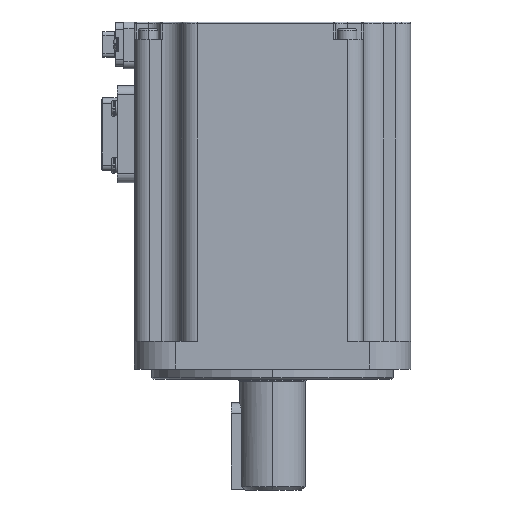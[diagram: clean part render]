
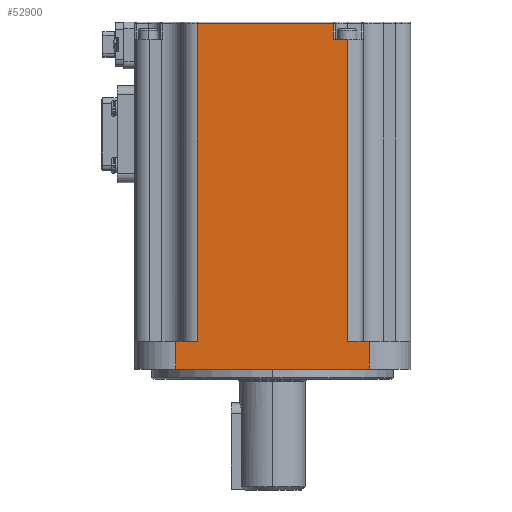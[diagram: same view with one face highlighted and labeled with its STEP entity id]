
A CAD part, left-side view. The second image highlights one B-rep face of the part: STEP entity #52900.
In plain terms, the highlighted planar face has unit normal (-1, 0, 0).
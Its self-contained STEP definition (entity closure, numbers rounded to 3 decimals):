
#631 = EDGE_CURVE ( 'NONE', #10519, #52697, #22753, .T. ) ;
#746 = DIRECTION ( 'NONE',  ( 0., 0., -1. ) ) ;
#1459 = VECTOR ( 'NONE', #34419, 1000. ) ;
#1499 = EDGE_CURVE ( 'NONE', #37249, #26542, #14126, .T. ) ;
#2490 = EDGE_CURVE ( 'NONE', #52697, #4895, #21730, .T. ) ;
#3678 = DIRECTION ( 'NONE',  ( 0., 0., -1. ) ) ;
#4394 = DIRECTION ( 'NONE',  ( 0., 0., 1. ) ) ;
#4895 = VERTEX_POINT ( 'NONE', #12227 ) ;
#4999 = ORIENTED_EDGE ( 'NONE', *, *, #44548, .F. ) ;
#5067 = EDGE_CURVE ( 'NONE', #39565, #37249, #44369, .T. ) ;
#6029 = LINE ( 'NONE', #10357, #40304 ) ;
#6148 = VECTOR ( 'NONE', #3678, 1000. ) ;
#7259 = EDGE_CURVE ( 'NONE', #42041, #32639, #33517, .T. ) ;
#9300 = LINE ( 'NONE', #31307, #30985 ) ;
#9736 = EDGE_CURVE ( 'NONE', #54468, #26542, #39869, .T. ) ;
#9809 = DIRECTION ( 'NONE',  ( 0., 0., -1. ) ) ;
#10225 = LINE ( 'NONE', #19201, #33079 ) ;
#10357 = CARTESIAN_POINT ( 'NONE',  ( -68.709, -15.325, 67.75 ) ) ;
#10519 = VERTEX_POINT ( 'NONE', #39707 ) ;
#11499 = DIRECTION ( 'NONE',  ( 0., 1., 0. ) ) ;
#12227 = CARTESIAN_POINT ( 'NONE',  ( -68.709, -25.694, -24.75 ) ) ;
#12234 = ORIENTED_EDGE ( 'NONE', *, *, #7259, .F. ) ;
#12464 = VERTEX_POINT ( 'NONE', #44317 ) ;
#14126 = LINE ( 'NONE', #49454, #50018 ) ;
#15390 = CARTESIAN_POINT ( 'NONE',  ( -68.709, -19.444, -24.75 ) ) ;
#16752 = CARTESIAN_POINT ( 'NONE',  ( -68.709, 42.306, -24.75 ) ) ;
#17606 = CARTESIAN_POINT ( 'NONE',  ( -68.709, 30.306, -24.75 ) ) ;
#18233 = CARTESIAN_POINT ( 'NONE',  ( -68.709, 42.306, -24.75 ) ) ;
#18453 = CARTESIAN_POINT ( 'NONE',  ( -68.709, 24.056, 52.75 ) ) ;
#19201 = CARTESIAN_POINT ( 'NONE',  ( -68.709, -15.825, 62.75 ) ) ;
#20822 = VECTOR ( 'NONE', #11499, 1000. ) ;
#21730 = LINE ( 'NONE', #18233, #47340 ) ;
#22350 = CARTESIAN_POINT ( 'NONE',  ( -68.709, 24.056, 67.25 ) ) ;
#22753 = LINE ( 'NONE', #40396, #54691 ) ;
#22814 = PLANE ( 'NONE',  #52142 ) ;
#23406 = ORIENTED_EDGE ( 'NONE', *, *, #54581, .T. ) ;
#23976 = CARTESIAN_POINT ( 'NONE',  ( -68.709, 42.306, -32.75 ) ) ;
#26542 = VERTEX_POINT ( 'NONE', #45465 ) ;
#27214 = VECTOR ( 'NONE', #35101, 1000. ) ;
#27236 = EDGE_CURVE ( 'NONE', #54468, #32639, #44189, .T. ) ;
#27524 = ORIENTED_EDGE ( 'NONE', *, *, #9736, .F. ) ;
#28620 = ORIENTED_EDGE ( 'NONE', *, *, #1499, .T. ) ;
#30985 = VECTOR ( 'NONE', #4394, 1000. ) ;
#31307 = CARTESIAN_POINT ( 'NONE',  ( -68.709, -25.694, -24.75 ) ) ;
#31567 = EDGE_LOOP ( 'NONE', ( #28620, #27524, #44821, #12234, #53796, #54028, #54443, #4999, #23406, #53528 ) ) ;
#32639 = VERTEX_POINT ( 'NONE', #44115 ) ;
#33079 = VECTOR ( 'NONE', #45558, 1000. ) ;
#33517 = LINE ( 'NONE', #23976, #20822 ) ;
#34419 = DIRECTION ( 'NONE',  ( 0., -1., 0. ) ) ;
#35101 = DIRECTION ( 'NONE',  ( 0., 1., 0. ) ) ;
#36103 = DIRECTION ( 'NONE',  ( 1., 0., 0. ) ) ;
#36700 = DIRECTION ( 'NONE',  ( 0., 0., 1. ) ) ;
#37248 = EDGE_CURVE ( 'NONE', #42041, #4895, #9300, .T. ) ;
#37249 = VERTEX_POINT ( 'NONE', #53316 ) ;
#39372 = DIRECTION ( 'NONE',  ( 0., -1., 0. ) ) ;
#39565 = VERTEX_POINT ( 'NONE', #46909 ) ;
#39707 = CARTESIAN_POINT ( 'NONE',  ( -68.709, -19.444, 62.75 ) ) ;
#39869 = LINE ( 'NONE', #16752, #1459 ) ;
#40304 = VECTOR ( 'NONE', #36700, 1000. ) ;
#40396 = CARTESIAN_POINT ( 'NONE',  ( -68.709, -19.444, 52.75 ) ) ;
#42041 = VERTEX_POINT ( 'NONE', #45494 ) ;
#44115 = CARTESIAN_POINT ( 'NONE',  ( -68.709, 30.306, -32.75 ) ) ;
#44189 = LINE ( 'NONE', #52015, #6148 ) ;
#44317 = CARTESIAN_POINT ( 'NONE',  ( -68.709, -15.325, 62.75 ) ) ;
#44369 = LINE ( 'NONE', #22350, #27214 ) ;
#44548 = EDGE_CURVE ( 'NONE', #12464, #10519, #10225, .T. ) ;
#44803 = FACE_OUTER_BOUND ( 'NONE', #31567, .T. ) ;
#44821 = ORIENTED_EDGE ( 'NONE', *, *, #27236, .T. ) ;
#45465 = CARTESIAN_POINT ( 'NONE',  ( -68.709, 24.056, -24.75 ) ) ;
#45494 = CARTESIAN_POINT ( 'NONE',  ( -68.709, -25.694, -32.75 ) ) ;
#45558 = DIRECTION ( 'NONE',  ( 0., -1., 0. ) ) ;
#46249 = DIRECTION ( 'NONE',  ( 0., -1., 0. ) ) ;
#46909 = CARTESIAN_POINT ( 'NONE',  ( -68.709, -15.325, 67.25 ) ) ;
#47340 = VECTOR ( 'NONE', #39372, 1000. ) ;
#49454 = CARTESIAN_POINT ( 'NONE',  ( -68.709, 24.056, 52.75 ) ) ;
#50018 = VECTOR ( 'NONE', #9809, 1000. ) ;
#52015 = CARTESIAN_POINT ( 'NONE',  ( -68.709, 30.306, -24.75 ) ) ;
#52142 = AXIS2_PLACEMENT_3D ( 'NONE', #18453, #36103, #46249 ) ;
#52697 = VERTEX_POINT ( 'NONE', #15390 ) ;
#52900 = ADVANCED_FACE ( 'NONE', ( #44803 ), #22814, .F. ) ;
#53316 = CARTESIAN_POINT ( 'NONE',  ( -68.709, 24.056, 67.25 ) ) ;
#53528 = ORIENTED_EDGE ( 'NONE', *, *, #5067, .T. ) ;
#53796 = ORIENTED_EDGE ( 'NONE', *, *, #37248, .T. ) ;
#54028 = ORIENTED_EDGE ( 'NONE', *, *, #2490, .F. ) ;
#54443 = ORIENTED_EDGE ( 'NONE', *, *, #631, .F. ) ;
#54468 = VERTEX_POINT ( 'NONE', #17606 ) ;
#54581 = EDGE_CURVE ( 'NONE', #12464, #39565, #6029, .T. ) ;
#54691 = VECTOR ( 'NONE', #746, 1000. ) ;
